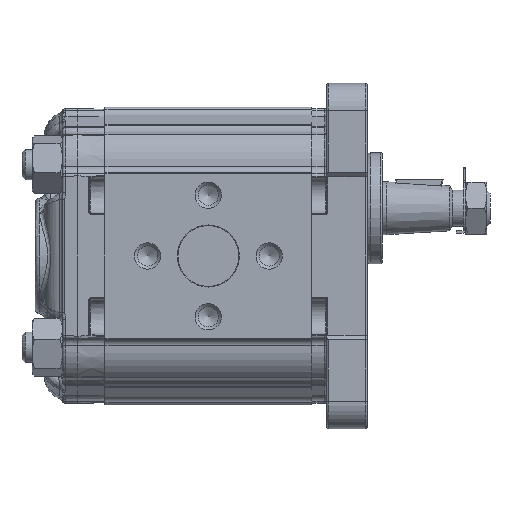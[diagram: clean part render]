
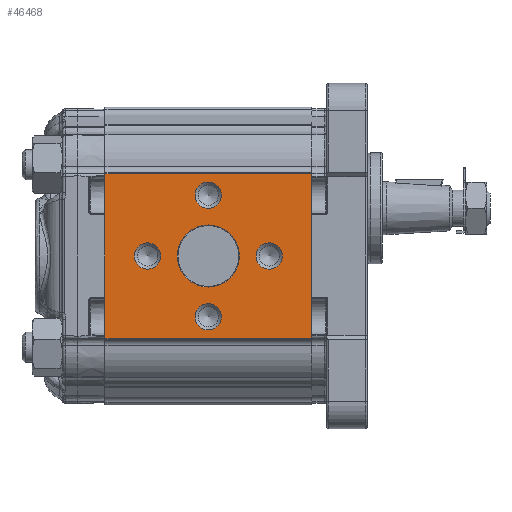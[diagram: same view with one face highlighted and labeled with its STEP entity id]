
A CAD part, left-side view. The second image highlights one B-rep face of the part: STEP entity #46468.
In plain terms, the highlighted planar face has unit normal (-1, 0, 0).
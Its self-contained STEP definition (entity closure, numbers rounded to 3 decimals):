
#2649=PLANE('',#49083);
#3651=LINE('',#64275,#5527);
#3652=LINE('',#64278,#5528);
#3653=LINE('',#64280,#5529);
#3654=LINE('',#64282,#5530);
#5527=VECTOR('',#54046,1000.);
#5528=VECTOR('',#54047,1000.);
#5529=VECTOR('',#54048,1000.);
#5530=VECTOR('',#54049,1000.);
#9682=ORIENTED_EDGE('',*,*,#17988,.T.);
#9683=ORIENTED_EDGE('',*,*,#17989,.T.);
#9684=ORIENTED_EDGE('',*,*,#17990,.T.);
#9685=ORIENTED_EDGE('',*,*,#17991,.T.);
#9686=ORIENTED_EDGE('',*,*,#17992,.T.);
#9687=ORIENTED_EDGE('',*,*,#17993,.F.);
#9688=ORIENTED_EDGE('',*,*,#17994,.F.);
#9689=ORIENTED_EDGE('',*,*,#17995,.T.);
#9690=ORIENTED_EDGE('',*,*,#17996,.T.);
#17988=EDGE_CURVE('',#22360,#22360,#25038,.F.);
#17989=EDGE_CURVE('',#22361,#22361,#25039,.F.);
#17990=EDGE_CURVE('',#22362,#22362,#25040,.F.);
#17991=EDGE_CURVE('',#22363,#22363,#25041,.F.);
#17992=EDGE_CURVE('',#22364,#22364,#25042,.F.);
#17993=EDGE_CURVE('',#22365,#22366,#3651,.T.);
#17994=EDGE_CURVE('',#22367,#22365,#3652,.T.);
#17995=EDGE_CURVE('',#22367,#22368,#3653,.T.);
#17996=EDGE_CURVE('',#22368,#22366,#3654,.T.);
#22360=VERTEX_POINT('',#64266);
#22361=VERTEX_POINT('',#64268);
#22362=VERTEX_POINT('',#64270);
#22363=VERTEX_POINT('',#64272);
#22364=VERTEX_POINT('',#64274);
#22365=VERTEX_POINT('',#64276);
#22366=VERTEX_POINT('',#64277);
#22367=VERTEX_POINT('',#64279);
#22368=VERTEX_POINT('',#64281);
#25038=CIRCLE('',#49084,4.324);
#25039=CIRCLE('',#49085,4.324);
#25040=CIRCLE('',#49086,4.324);
#25041=CIRCLE('',#49087,4.324);
#25042=CIRCLE('',#49088,10.2);
#26727=EDGE_LOOP('',(#9682));
#26728=EDGE_LOOP('',(#9683));
#26729=EDGE_LOOP('',(#9684));
#26730=EDGE_LOOP('',(#9685));
#26731=EDGE_LOOP('',(#9686));
#26732=EDGE_LOOP('',(#9687,#9688,#9689,#9690));
#29068=FACE_BOUND('',#26727,.T.);
#29069=FACE_BOUND('',#26728,.T.);
#29070=FACE_BOUND('',#26729,.T.);
#29071=FACE_BOUND('',#26730,.T.);
#29072=FACE_BOUND('',#26731,.T.);
#29073=FACE_BOUND('',#26732,.T.);
#46468=ADVANCED_FACE('',(#29068,#29069,#29070,#29071,#29072,#29073),#2649,
 .T.);
#49083=AXIS2_PLACEMENT_3D('',#64264,#54034,#54035);
#49084=AXIS2_PLACEMENT_3D('',#64265,#54036,#54037);
#49085=AXIS2_PLACEMENT_3D('',#64267,#54038,#54039);
#49086=AXIS2_PLACEMENT_3D('',#64269,#54040,#54041);
#49087=AXIS2_PLACEMENT_3D('',#64271,#54042,#54043);
#49088=AXIS2_PLACEMENT_3D('',#64273,#54044,#54045);
#54034=DIRECTION('',(-1.,0.,0.));
#54035=DIRECTION('',(0.,0.,1.));
#54036=DIRECTION('',(-1.,0.,0.));
#54037=DIRECTION('',(0.,0.,1.));
#54038=DIRECTION('',(-1.,0.,0.));
#54039=DIRECTION('',(0.,0.,1.));
#54040=DIRECTION('',(-1.,0.,0.));
#54041=DIRECTION('',(0.,0.,1.));
#54042=DIRECTION('',(-1.,0.,0.));
#54043=DIRECTION('',(0.,0.,1.));
#54044=DIRECTION('',(-1.,0.,0.));
#54045=DIRECTION('',(0.,0.,1.));
#54046=DIRECTION('',(0.,0.,-1.));
#54047=DIRECTION('',(0.,-1.,0.));
#54048=DIRECTION('',(0.,0.,-1.));
#54049=DIRECTION('',(0.,-1.,0.));
#64264=CARTESIAN_POINT('',(-43.,68.,27.048));
#64265=CARTESIAN_POINT('',(-43.,14.,0.));
#64266=CARTESIAN_POINT('',(-43.,14.,4.324));
#64267=CARTESIAN_POINT('',(-43.,54.,0.));
#64268=CARTESIAN_POINT('',(-43.,54.,4.324));
#64269=CARTESIAN_POINT('',(-43.,34.,-20.));
#64270=CARTESIAN_POINT('',(-43.,34.,-15.677));
#64271=CARTESIAN_POINT('',(-43.,34.,20.));
#64272=CARTESIAN_POINT('',(-43.,34.,24.324));
#64273=CARTESIAN_POINT('',(-43.,34.,0.));
#64274=CARTESIAN_POINT('',(-43.,34.,10.2));
#64275=CARTESIAN_POINT('',(-43.,0.,27.048));
#64276=CARTESIAN_POINT('',(-43.,0.,27.048));
#64277=CARTESIAN_POINT('',(-43.,0.,-27.048));
#64278=CARTESIAN_POINT('',(-43.,68.,27.048));
#64279=CARTESIAN_POINT('',(-43.,68.,27.048));
#64280=CARTESIAN_POINT('',(-43.,68.,27.048));
#64281=CARTESIAN_POINT('',(-43.,68.,-27.048));
#64282=CARTESIAN_POINT('',(-43.,68.,-27.048));
